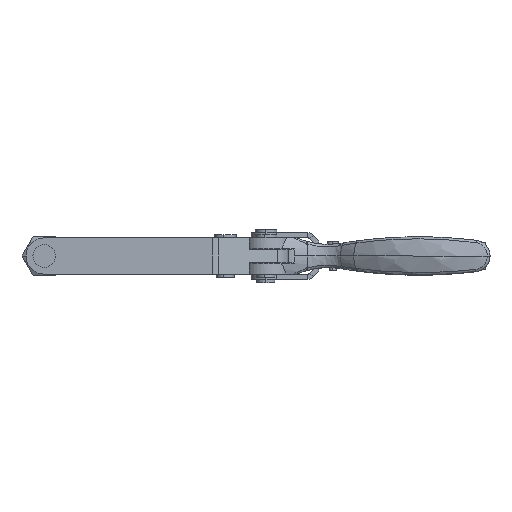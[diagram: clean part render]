
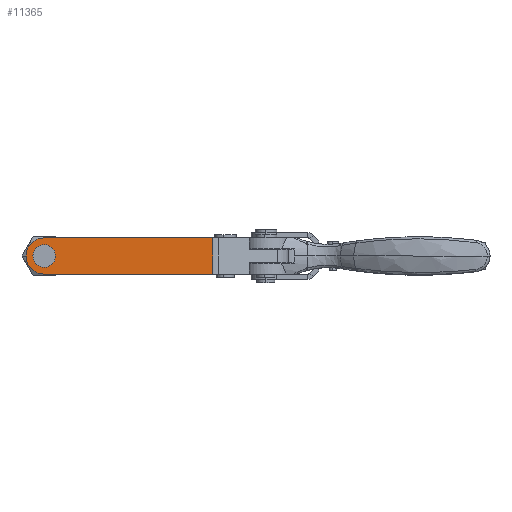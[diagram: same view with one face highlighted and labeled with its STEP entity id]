
A CAD part, front view. The second image highlights one B-rep face of the part: STEP entity #11365.
In plain terms, the highlighted planar face has unit normal (0, -1, 0).
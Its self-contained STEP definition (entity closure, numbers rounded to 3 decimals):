
#601 = VERTEX_POINT ( 'NONE', #16130 ) ;
#1625 = EDGE_CURVE ( 'NONE', #4786, #3203, #13679, .T. ) ;
#1814 = EDGE_CURVE ( 'NONE', #12913, #10801, #11211, .T. ) ;
#2176 = PLANE ( 'NONE',  #12374 ) ;
#2196 = EDGE_LOOP ( 'NONE', ( #7323, #4417 ) ) ;
#2394 = CARTESIAN_POINT ( 'NONE',  ( -98., -25., 0. ) ) ;
#3123 = VECTOR ( 'NONE', #15721, 1000. ) ;
#3203 = VERTEX_POINT ( 'NONE', #10029 ) ;
#3725 = DIRECTION ( 'NONE',  ( 0., 0., -1. ) ) ;
#3735 = EDGE_CURVE ( 'NONE', #10801, #12913, #11463, .T. ) ;
#4417 = ORIENTED_EDGE ( 'NONE', *, *, #1814, .F. ) ;
#4786 = VERTEX_POINT ( 'NONE', #10642 ) ;
#5071 = CARTESIAN_POINT ( 'NONE',  ( -23.578, -25., -8. ) ) ;
#5514 = CARTESIAN_POINT ( 'NONE',  ( -23.578, -25., 8. ) ) ;
#6197 = DIRECTION ( 'NONE',  ( 0., 1., 0. ) ) ;
#6321 = VECTOR ( 'NONE', #8252, 1000. ) ;
#6728 = EDGE_CURVE ( 'NONE', #3203, #8644, #14303, .T. ) ;
#6843 = CARTESIAN_POINT ( 'NONE',  ( -98., -25., 0. ) ) ;
#7026 = ORIENTED_EDGE ( 'NONE', *, *, #14949, .T. ) ;
#7323 = ORIENTED_EDGE ( 'NONE', *, *, #3735, .F. ) ;
#7393 = CARTESIAN_POINT ( 'NONE',  ( -98., -25., 0. ) ) ;
#7749 = DIRECTION ( 'NONE',  ( 0., 0., 1. ) ) ;
#8169 = DIRECTION ( 'NONE',  ( 0., 0., 1. ) ) ;
#8252 = DIRECTION ( 'NONE',  ( 1., 0., 0. ) ) ;
#8644 = VERTEX_POINT ( 'NONE', #15781 ) ;
#8745 = DIRECTION ( 'NONE',  ( 0., 0., -1. ) ) ;
#9832 = LINE ( 'NONE', #5514, #6321 ) ;
#9962 = CARTESIAN_POINT ( 'NONE',  ( -98., -25., -4.25 ) ) ;
#10029 = CARTESIAN_POINT ( 'NONE',  ( -98., -25., -8. ) ) ;
#10642 = CARTESIAN_POINT ( 'NONE',  ( -23.578, -25., -8. ) ) ;
#10708 = AXIS2_PLACEMENT_3D ( 'NONE', #7393, #16579, #8745 ) ;
#10801 = VERTEX_POINT ( 'NONE', #9962 ) ;
#10981 = LINE ( 'NONE', #5071, #14065 ) ;
#11211 = CIRCLE ( 'NONE', #13803, 4.25 ) ;
#11365 = ADVANCED_FACE ( 'NONE', ( #12956, #16016 ), #2176, .F. ) ;
#11463 = CIRCLE ( 'NONE', #10708, 4.25 ) ;
#11656 = DIRECTION ( 'NONE',  ( 0., -1., 0. ) ) ;
#12374 = AXIS2_PLACEMENT_3D ( 'NONE', #14066, #6197, #15398 ) ;
#12913 = VERTEX_POINT ( 'NONE', #13159 ) ;
#12956 = FACE_BOUND ( 'NONE', #2196, .T. ) ;
#13046 = AXIS2_PLACEMENT_3D ( 'NONE', #6843, #16035, #8169 ) ;
#13066 = EDGE_CURVE ( 'NONE', #8644, #601, #9832, .T. ) ;
#13159 = CARTESIAN_POINT ( 'NONE',  ( -98., -25., 4.25 ) ) ;
#13663 = ORIENTED_EDGE ( 'NONE', *, *, #6728, .F. ) ;
#13679 = LINE ( 'NONE', #14343, #3123 ) ;
#13803 = AXIS2_PLACEMENT_3D ( 'NONE', #2394, #11656, #3725 ) ;
#14065 = VECTOR ( 'NONE', #7749, 1000. ) ;
#14066 = CARTESIAN_POINT ( 'NONE',  ( -23.578, -25., -8. ) ) ;
#14303 = CIRCLE ( 'NONE', #13046, 8. ) ;
#14343 = CARTESIAN_POINT ( 'NONE',  ( -23.578, -25., -8. ) ) ;
#14949 = EDGE_CURVE ( 'NONE', #4786, #601, #10981, .T. ) ;
#15188 = ORIENTED_EDGE ( 'NONE', *, *, #1625, .F. ) ;
#15398 = DIRECTION ( 'NONE',  ( 0., 0., 1. ) ) ;
#15721 = DIRECTION ( 'NONE',  ( -1., 0., 0. ) ) ;
#15781 = CARTESIAN_POINT ( 'NONE',  ( -98., -25., 8. ) ) ;
#16016 = FACE_OUTER_BOUND ( 'NONE', #16250, .T. ) ;
#16035 = DIRECTION ( 'NONE',  ( 0., 1., 0. ) ) ;
#16130 = CARTESIAN_POINT ( 'NONE',  ( -23.578, -25., 8. ) ) ;
#16250 = EDGE_LOOP ( 'NONE', ( #15188, #7026, #16374, #13663 ) ) ;
#16374 = ORIENTED_EDGE ( 'NONE', *, *, #13066, .F. ) ;
#16579 = DIRECTION ( 'NONE',  ( 0., -1., 0. ) ) ;
